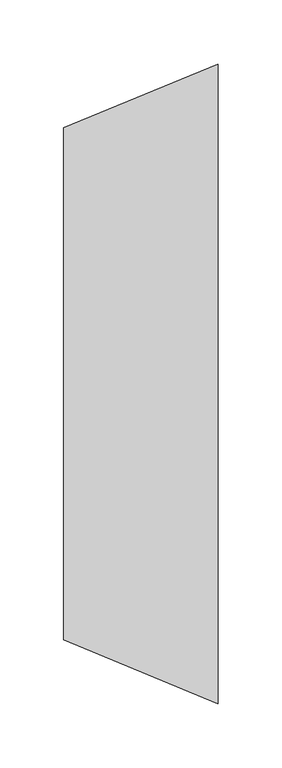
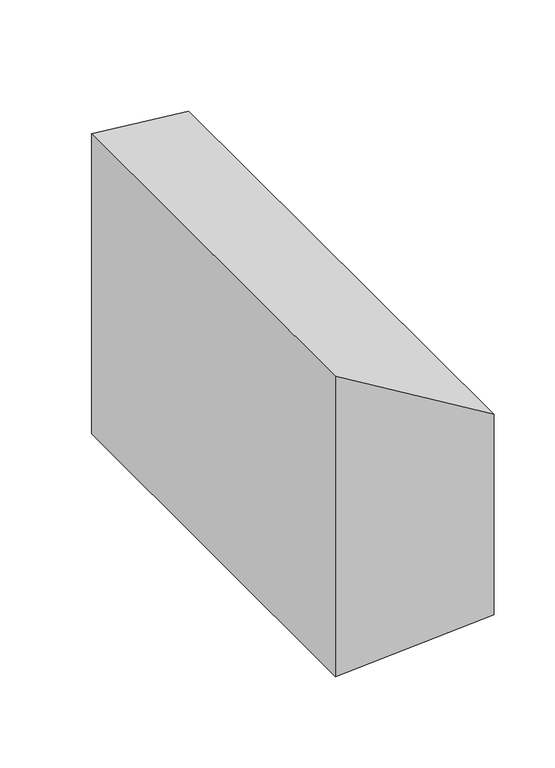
"""IFC4 building model written with IfcOpenShell, lengths in millimetres: duct fitting geometry, M_Transición rectangular - Ángulo : EXT_45 graus."""

from ifc_helpers import new_model, si_unit, origin, place, context, project, spatial, faceted_brep, source, transform, mapped, element, save


def duct_fitting_4eb480d5(model_context):
    return source(origin(), model_context, "Body", "Brep", [
        faceted_brep([(120.7106781, -250.0, 100.0), (120.7106781, -250.0, -100.0), (120.7106781, 250.0, -100.0), (120.7106781, 250.0, 100.0), (0.0, -200.0, 150.0), (0.0, 200.0, 150.0), (0.0, 200.0, -150.0), (0.0, -200.0, -150.0)], [[[0, 1, 2, 3]], [[4, 5, 6, 7]], [[4, 7, 1, 0]], [[7, 6, 2, 1]], [[6, 5, 3, 2]], [[5, 4, 0, 3]]]),
    ])


if __name__ == "__main__":
    model = new_model("IFC4")
    model_context = context("Model", 3, world=origin())
    ifc_project = project(units=[si_unit("LENGTHUNIT", "METRE", prefix="MILLI")], contexts=[model_context])
    site = spatial("IfcSite", under=ifc_project)
    building = spatial("IfcBuilding", under=site)
    placement = place(None, origin())
    duct_fitting_shape = duct_fitting_4eb480d5(model_context)
    element("IfcDuctFitting", 1, ObjectType="M_Transición rectangular - Ángulo : EXT_45 graus", at=placement, inside=building, context=model_context, shape_type="MappedRepresentation", body=[
        mapped(duct_fitting_shape, transform((0.0, 0.0, 0.0), x_axis=(1.0, 0.0, 0.0), y_axis=(0.0, 1.0, 0.0), z_axis=(0.0, 0.0, 1.0))),
    ])
    save(model, "model.ifc")
